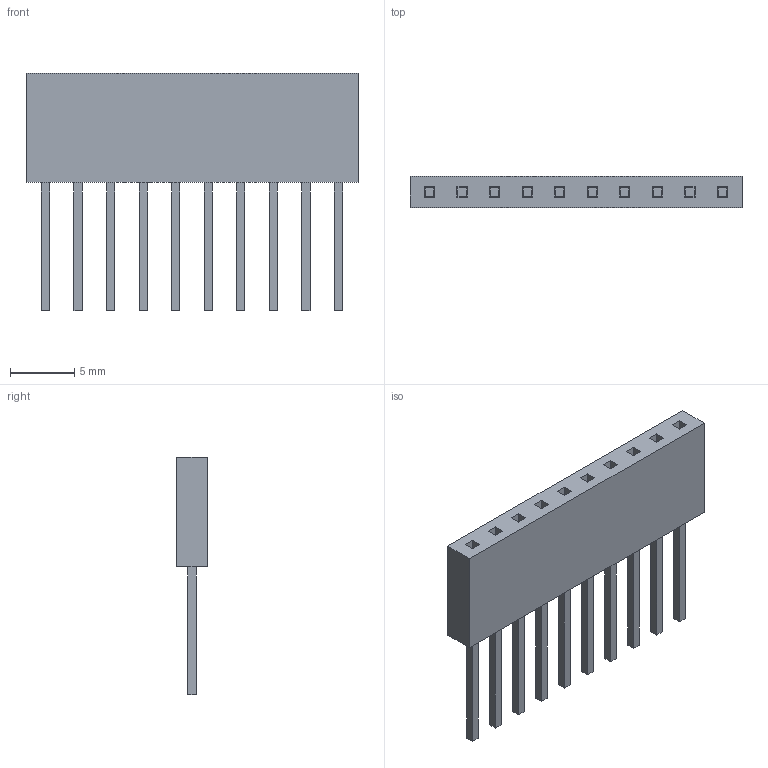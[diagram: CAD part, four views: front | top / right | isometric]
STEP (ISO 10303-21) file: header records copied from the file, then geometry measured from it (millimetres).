
FILE_DESCRIPTION(('FreeCAD Model'),'2;1');
FILE_NAME('Open CASCADE Shape Model','2026-10-15T16:03:42',('FreeCAD'),( 'FreeCAD'),'Open CASCADE STEP processor 7.9','FreeCAD','Unknown');
FILE_SCHEMA(('AUTOMOTIVE_DESIGN { 1 0 10303 214 1 1 1 1 }'));
Length unit declared in the file: millimetre
Products named in the file (1): Open CASCADE STEP translator 7.9 6
Bounding box: 25.91 x 2.41 x 18.51 mm (x, y, z)
Volume: 538.9 mm3; surface area: 1130.6 mm2
Topology: 11 solids, 11 shells, 116 faces, 252 edges, 168 vertices
Faces by surface type: plane 116
Entity records: 3086 total; most frequent: CARTESIAN_POINT 537, ORIENTED_EDGE 504, DIRECTION 486, EDGE_CURVE 252, LINE 252, VECTOR 252, VERTEX_POINT 168, FACE_BOUND 126
